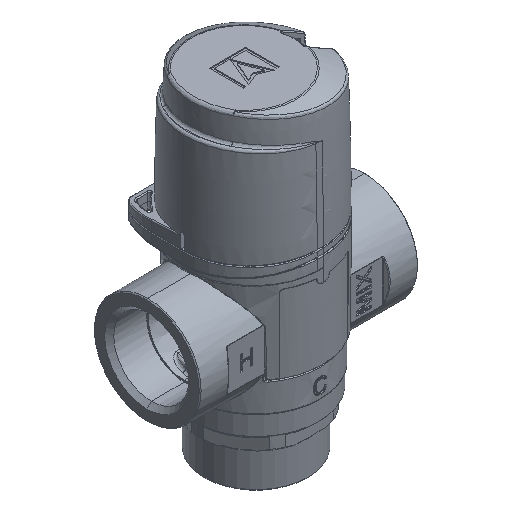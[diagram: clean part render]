
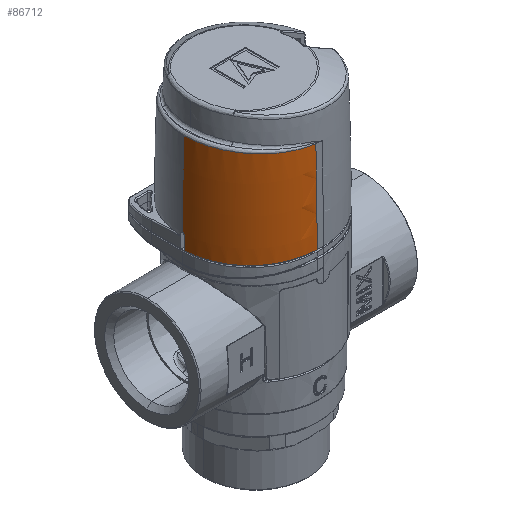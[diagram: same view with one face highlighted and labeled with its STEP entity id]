
A CAD part, isometric view. The second image highlights one B-rep face of the part: STEP entity #86712.
In plain terms, the highlighted toroidal (fillet/blend) face has major radius 1063.64 mm and minor radius 1085.24 mm.
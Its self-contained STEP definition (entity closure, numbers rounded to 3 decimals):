
#634 = CARTESIAN_POINT ( 'NONE',  ( 21.542, 8.137, 31.565 ) ) ;
#3406 = DIRECTION ( 'NONE',  ( 0., 0., 1. ) ) ;
#4859 = DIRECTION ( 'NONE',  ( 1., 0., 0. ) ) ;
#6237 = EDGE_CURVE ( 'NONE', #131817, #64638, #96122, .T. ) ;
#7165 = ORIENTED_EDGE ( 'NONE', *, *, #10666, .T. ) ;
#8042 = EDGE_CURVE ( 'NONE', #40383, #131817, #113957, .T. ) ;
#10666 = EDGE_CURVE ( 'NONE', #73455, #83764, #128862, .T. ) ;
#10748 = AXIS2_PLACEMENT_3D ( 'NONE', #78572, #49812, #82724 ) ;
#11223 = FACE_OUTER_BOUND ( 'NONE', #51977, .T. ) ;
#11590 = CARTESIAN_POINT ( 'NONE',  ( 20.656, 10.011, 31.471 ) ) ;
#14911 = CARTESIAN_POINT ( 'NONE',  ( 2., 0., -0.2 ) ) ;
#18305 = CARTESIAN_POINT ( 'NONE',  ( 23.581, 0.6, 4.632 ) ) ;
#23282 = CARTESIAN_POINT ( 'NONE',  ( 22.242, 6.189, 31.639 ) ) ;
#24699 = CARTESIAN_POINT ( 'NONE',  ( 6.124, 20.914, 29.93 ) ) ;
#25855 = DIRECTION ( 'NONE',  ( 1., 0., 0. ) ) ;
#28057 = ORIENTED_EDGE ( 'NONE', *, *, #136365, .T. ) ;
#33994 = VERTEX_POINT ( 'NONE', #70723 ) ;
#34266 = CARTESIAN_POINT ( 'NONE',  ( 2., 21.194, 29.493 ) ) ;
#37021 = CARTESIAN_POINT ( 'NONE',  ( 23.592, 0.6, 0.3 ) ) ;
#38436 = CARTESIAN_POINT ( 'NONE',  ( 23.588, 0.6, 3.1 ) ) ;
#40383 = VERTEX_POINT ( 'NONE', #142728 ) ;
#40832 = DIRECTION ( 'NONE',  ( 0., 0., -1. ) ) ;
#40999 = DIRECTION ( 'NONE',  ( 1., 0., 0. ) ) ;
#47917 = B_SPLINE_CURVE_WITH_KNOTS ( 'NONE', 3,
 ( #100732, #79535, #122654, #77361, #23282, #634, #11590, #56107, #89055, #57526, #135076, #24699, #121942, #34266 ),
 .UNSPECIFIED., .F., .F.,
 ( 4, 1, 1, 1, 1, 1, 1, 1, 1, 1, 1, 4 ),
 ( 0.5, 0.5, 0.563, 0.594, 0.625, 0.656, 0.688, 0.75, 0.812, 0.875, 0.938, 1. ),
 .UNSPECIFIED. ) ;
#48739 = CARTESIAN_POINT ( 'NONE',  ( 23.592, 0.6, 0.3 ) ) ;
#49812 = DIRECTION ( 'NONE',  ( -1., 0., 0. ) ) ;
#50416 = CARTESIAN_POINT ( 'NONE',  ( 23.587, 0.1, 5. ) ) ;
#51870 = CARTESIAN_POINT ( 'NONE',  ( 23.582, 0.546, 4.762 ) ) ;
#51977 = EDGE_LOOP ( 'NONE', ( #141760, #63085, #57587, #28057, #7165, #121310, #71051 ) ) ;
#56107 = CARTESIAN_POINT ( 'NONE',  ( 19.212, 12.415, 31.318 ) ) ;
#56970 = CARTESIAN_POINT ( 'NONE',  ( 23.588, 0., 5. ) ) ;
#57526 = CARTESIAN_POINT ( 'NONE',  ( 13.775, 17.743, 30.742 ) ) ;
#57587 = ORIENTED_EDGE ( 'NONE', *, *, #91919, .T. ) ;
#60344 = CARTESIAN_POINT ( 'NONE',  ( 2., 0., 0.3 ) ) ;
#62155 = CARTESIAN_POINT ( 'NONE',  ( 2., 0., 5. ) ) ;
#63085 = ORIENTED_EDGE ( 'NONE', *, *, #8042, .F. ) ;
#63482 = CARTESIAN_POINT ( 'NONE',  ( 23.587, 0.232, 5. ) ) ;
#64638 = VERTEX_POINT ( 'NONE', #95742 ) ;
#69822 = B_SPLINE_CURVE_WITH_KNOTS ( 'NONE', 3,
 ( #50416, #63482, #86911, #51870, #18305, #97173 ),
 .UNSPECIFIED., .F., .F.,
 ( 4, 2, 4 ),
 ( 0., 0., 0.001 ),
 .UNSPECIFIED. ) ;
#70723 = CARTESIAN_POINT ( 'NONE',  ( 23.582, 0.6, 4.5 ) ) ;
#71051 = ORIENTED_EDGE ( 'NONE', *, *, #96371, .F. ) ;
#71850 = AXIS2_PLACEMENT_3D ( 'NONE', #62155, #106106, #40999 ) ;
#72724 = AXIS2_PLACEMENT_3D ( 'NONE', #86122, #140929, #40832 ) ;
#73455 = VERTEX_POINT ( 'NONE', #48739 ) ;
#73752 = CIRCLE ( 'NONE', #10748, 1085.244 ) ;
#77164 = VERTEX_POINT ( 'NONE', #91033 ) ;
#77361 = CARTESIAN_POINT ( 'NONE',  ( 22.925, 3.47, 31.712 ) ) ;
#78572 = CARTESIAN_POINT ( 'NONE',  ( 2., -1063.644, -0.2 ) ) ;
#79535 = CARTESIAN_POINT ( 'NONE',  ( 23.13, 0.005, 31.733 ) ) ;
#82283 = CARTESIAN_POINT ( 'NONE',  ( 23.591, 0.6, 1.7 ) ) ;
#82724 = DIRECTION ( 'NONE',  ( 0., -1., 0. ) ) ;
#83354 = TOROIDAL_SURFACE ( 'NONE', #127709, -1063.644, 1085.244 ) ;
#83764 = VERTEX_POINT ( 'NONE', #137844 ) ;
#85051 = EDGE_CURVE ( 'NONE', #77164, #83764, #73752, .T. ) ;
#86122 = CARTESIAN_POINT ( 'NONE',  ( -1061.644, 0., -0.2 ) ) ;
#86712 = ADVANCED_FACE ( 'NONE', ( #11223 ), #83354, .T. ) ;
#86911 = CARTESIAN_POINT ( 'NONE',  ( 23.585, 0.361, 4.946 ) ) ;
#89055 = CARTESIAN_POINT ( 'NONE',  ( 17.027, 15.074, 31.086 ) ) ;
#91033 = CARTESIAN_POINT ( 'NONE',  ( 2., 21.194, 29.493 ) ) ;
#91919 = EDGE_CURVE ( 'NONE', #40383, #33994, #69822, .T. ) ;
#92309 = DIRECTION ( 'NONE',  ( 0., 0., 1. ) ) ;
#95742 = CARTESIAN_POINT ( 'NONE',  ( 23.13, 0., 31.733 ) ) ;
#96122 = CIRCLE ( 'NONE', #72724, 1085.244 ) ;
#96371 = EDGE_CURVE ( 'NONE', #64638, #77164, #47917, .T. ) ;
#97173 = CARTESIAN_POINT ( 'NONE',  ( 23.582, 0.6, 4.5 ) ) ;
#100732 = CARTESIAN_POINT ( 'NONE',  ( 23.13, 0., 31.733 ) ) ;
#106106 = DIRECTION ( 'NONE',  ( 0., 0., -1. ) ) ;
#107944 = AXIS2_PLACEMENT_3D ( 'NONE', #60344, #3406, #4859 ) ;
#113957 = CIRCLE ( 'NONE', #71850, 21.588 ) ;
#114520 = CARTESIAN_POINT ( 'NONE',  ( 23.582, 0.6, 4.5 ) ) ;
#121310 = ORIENTED_EDGE ( 'NONE', *, *, #85051, .F. ) ;
#121942 = CARTESIAN_POINT ( 'NONE',  ( 3.393, 21.19, 29.641 ) ) ;
#122654 = CARTESIAN_POINT ( 'NONE',  ( 23.131, 1.399, 31.734 ) ) ;
#127709 = AXIS2_PLACEMENT_3D ( 'NONE', #14911, #92309, #25855 ) ;
#128862 = CIRCLE ( 'NONE', #107944, 21.6 ) ;
#131817 = VERTEX_POINT ( 'NONE', #56970 ) ;
#135076 = CARTESIAN_POINT ( 'NONE',  ( 10.135, 19.691, 30.356 ) ) ;
#135914 = B_SPLINE_CURVE_WITH_KNOTS ( 'NONE', 3,
 ( #114520, #38436, #82283, #37021 ),
 .UNSPECIFIED., .F., .F.,
 ( 4, 4 ),
 ( 0., 0.004 ),
 .UNSPECIFIED. ) ;
#136365 = EDGE_CURVE ( 'NONE', #33994, #73455, #135914, .T. ) ;
#137844 = CARTESIAN_POINT ( 'NONE',  ( 2., 21.6, 0.3 ) ) ;
#140929 = DIRECTION ( 'NONE',  ( 0., -1., 0. ) ) ;
#141760 = ORIENTED_EDGE ( 'NONE', *, *, #6237, .F. ) ;
#142728 = CARTESIAN_POINT ( 'NONE',  ( 23.587, 0.1, 5. ) ) ;
